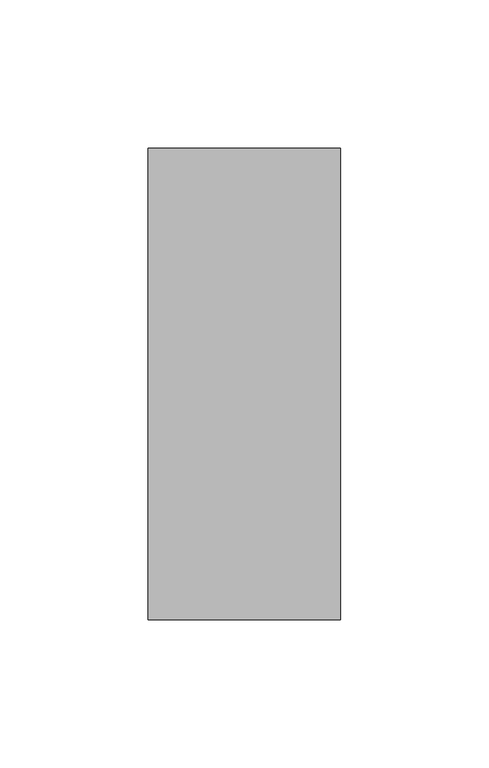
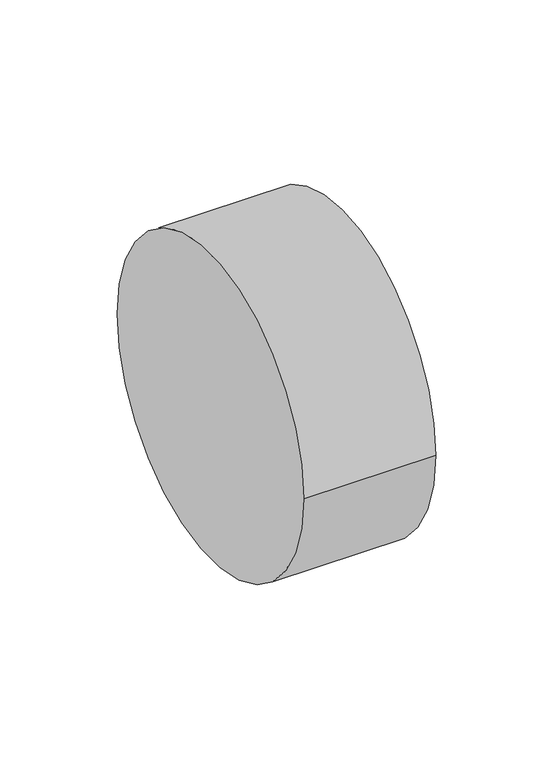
"""IFC4 building model written with IfcOpenShell, lengths in millimetres: pipe fitting geometry, ADSK_ДетальСтальнаяСварная_Заглушка_ГОСТ17379-2001 : Исполнение 2."""

from ifc_helpers import new_model, si_unit, point, frame, origin, origin_2d, place, context, project, spatial, circle_curve, trimmed, segment, composite_curve, outline, extrude, source, transform, mapped, element, save


def pipe_fitting_2a4f80d6(model_context):
    return source(origin(), model_context, "Body", "SweptSolid", [
        extrude(outline(composite_curve([segment(trimmed(circle_curve(origin_2d(), 79.5), [point((-79.5, 0.0))], [point((79.5, 0.0))], False, "CARTESIAN"), True, "CONTINUOUS"), segment(trimmed(circle_curve(origin_2d(), 79.5), [point((79.5, 0.0))], [point((-79.5, 0.0))], False, "CARTESIAN"), True, "CONTINUOUS")], self_intersect=False)), frame((0.0, 0.0, 0.0), z_axis=(1.0, 0.0, 0.0), x_axis=(0.0, 1.0, 0.0)), (0.0, 0.0, 1.0), 65.0),
    ])


if __name__ == "__main__":
    model = new_model("IFC4")
    model_context = context("Model", 3, world=origin())
    ifc_project = project(units=[si_unit("LENGTHUNIT", "METRE", prefix="MILLI")], contexts=[model_context])
    site = spatial("IfcSite", under=ifc_project)
    building = spatial("IfcBuilding", under=site)
    placement = place(None, origin())
    pipe_fitting_shape = pipe_fitting_2a4f80d6(model_context)
    element("IfcPipeFitting", 1, ObjectType="ADSK_ДетальСтальнаяСварная_Заглушка_ГОСТ17379-2001 : Исполнение 2", at=placement, inside=building, context=model_context, shape_type="MappedRepresentation", body=[
        mapped(pipe_fitting_shape, transform((0.0, 0.0, 0.0), x_axis=(1.0, 0.0, 0.0), y_axis=(0.0, 1.0, 0.0), z_axis=(0.0, 0.0, 1.0))),
    ])
    save(model, "model.ifc")
